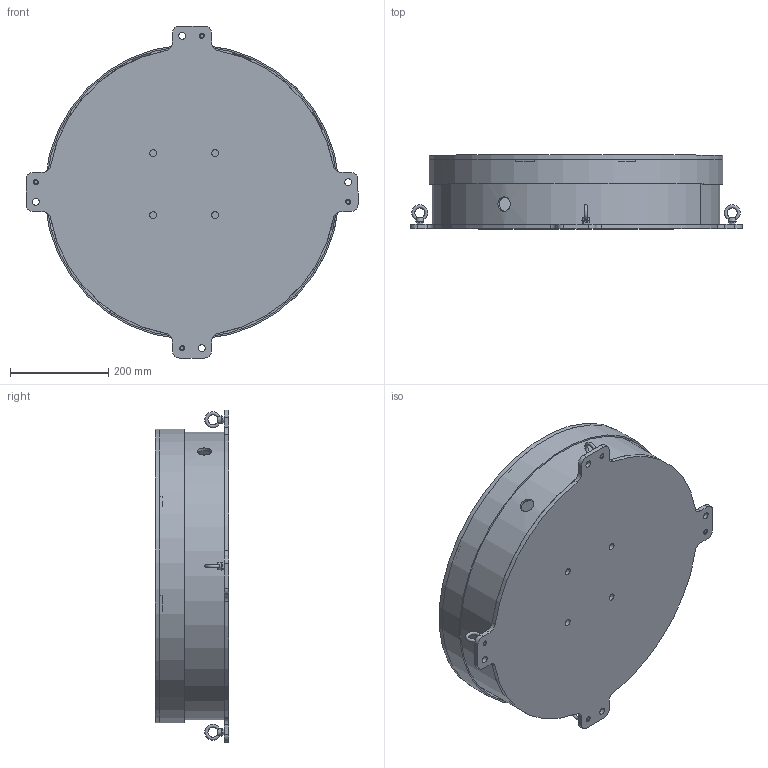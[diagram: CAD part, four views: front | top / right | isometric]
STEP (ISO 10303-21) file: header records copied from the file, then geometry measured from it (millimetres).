
FILE_DESCRIPTION(/* description */ (''),/* implementation_level */ '2;1');
FILE_NAME(/* name */ '',/* time_stamp */ '2026-07-06T11:56:16+09:00',/* author */ ('k-hotta'),/* organization */ (''),/* preprocessor_version */ 'ST-DEVELOPER v20.1',/* originating_system */ 'Autodesk Inventor 2026',/* authorisation */ '');
FILE_SCHEMA (('AUTOMOTIVE_DESIGN { 1 0 10303 214 3 1 1 }'));
Length unit declared in the file: millimetre
Products named in the file (15): P150-0004_IRT600-RM_総組立図; P151-0018; P151-0016; P151-0016-001; P151-0016-002; H0NG0812; P151-0019; P151-0019_1; P151-0019-001; P151-0019-002; HPNN50802; HFSG0820F; CHIC8; NEZI_CHIC8; NAT_CHIC8
Assembly tree (30 placements, depth 4):
  P150-0004_IRT600-RM_総組立図
    P151-0018
      P151-0016
        P151-0016-001
        P151-0016-002
        H0NG0812  x4
    P151-0019
      P151-0019_1
      P151-0019-001
      P151-0019-002
      HPNN50802  x3
    HFSG0820F  x9
    CHIC8  x4
      NEZI_CHIC8
      NAT_CHIC8
Bounding box: 676 x 150 x 676 mm (x, y, z)
Volume: 6488429.9 mm3; surface area: 1789152.6 mm2
Topology: 37 solids, 37 shells, 466 faces, 1078 edges, 685 vertices
Faces by surface type: plane 248, cone 109, cylinder 97, torus 12
Full cylindrical faces by diameter (mm): 6 x4, 6.647 x11, 8 x13, 9 x6, 9.5 x3, 9.6 x3, 10 x4, 14 x8, 16 x9, 18.5 x1, 29 x1, 600 x1
Entity records: 6884 total; most frequent: CARTESIAN_POINT 1412, DIRECTION 1100, ORIENTED_EDGE 932, EDGE_CURVE 466, AXIS2_PLACEMENT_3D 428, VERTEX_POINT 301, EDGE_LOOP 257, LINE 244
